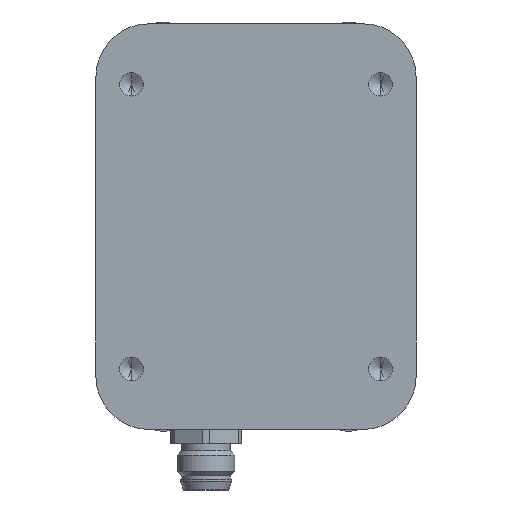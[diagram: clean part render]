
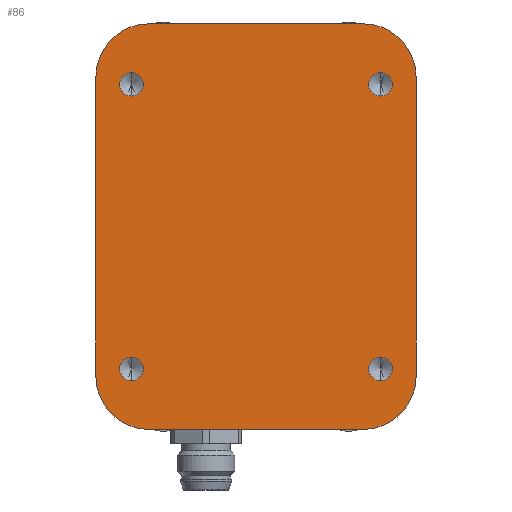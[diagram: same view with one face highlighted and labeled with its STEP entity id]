
A CAD part, front view. The second image highlights one B-rep face of the part: STEP entity #86.
In plain terms, the highlighted planar face has unit normal (0, -1, 0).
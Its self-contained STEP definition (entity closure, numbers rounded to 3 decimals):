
#32 = EDGE_CURVE ( 'NONE', #1466, #2374, #5503, .T. ) ;
#86 = ADVANCED_FACE ( 'NONE', ( #7129, #3865, #5037, #1613, #1275 ), #387, .T. ) ;
#98 = ORIENTED_EDGE ( 'NONE', *, *, #3847, .F. ) ;
#137 = EDGE_CURVE ( 'NONE', #4256, #5511, #5593, .T. ) ;
#147 = ORIENTED_EDGE ( 'NONE', *, *, #5981, .T. ) ;
#169 = CIRCLE ( 'NONE', #3942, 1.65 ) ;
#268 = LINE ( 'NONE', #3907, #1610 ) ;
#307 = DIRECTION ( 'NONE',  ( 0., 0., 1. ) ) ;
#339 = VECTOR ( 'NONE', #5810, 1000. ) ;
#387 = PLANE ( 'NONE',  #1679 ) ;
#407 = DIRECTION ( 'NONE',  ( 1., 0., 0. ) ) ;
#459 = DIRECTION ( 'NONE',  ( 0., -1., 0. ) ) ;
#499 = VECTOR ( 'NONE', #5546, 1000. ) ;
#500 = CARTESIAN_POINT ( 'NONE',  ( -8.359, 12.047, 60.6 ) ) ;
#502 = CARTESIAN_POINT ( 'NONE',  ( 26.641, 12.047, 20.6 ) ) ;
#526 = DIRECTION ( 'NONE',  ( 0., 0., 1. ) ) ;
#741 = ORIENTED_EDGE ( 'NONE', *, *, #137, .F. ) ;
#817 = CIRCLE ( 'NONE', #2929, 1.65 ) ;
#854 = DIRECTION ( 'NONE',  ( 0., -1., 0. ) ) ;
#890 = CARTESIAN_POINT ( 'NONE',  ( -8.359, 12.047, 20.6 ) ) ;
#903 = CIRCLE ( 'NONE', #2695, 7.5 ) ;
#975 = VERTEX_POINT ( 'NONE', #4673 ) ;
#977 = AXIS2_PLACEMENT_3D ( 'NONE', #3762, #4798, #7221 ) ;
#1038 = CARTESIAN_POINT ( 'NONE',  ( -13.359, 12.047, 12.1 ) ) ;
#1096 = CIRCLE ( 'NONE', #5447, 7.5 ) ;
#1103 = EDGE_CURVE ( 'NONE', #975, #5061, #268, .T. ) ;
#1212 = EDGE_CURVE ( 'NONE', #6176, #3005, #5761, .T. ) ;
#1241 = CARTESIAN_POINT ( 'NONE',  ( 24.141, 12.047, 19.6 ) ) ;
#1275 = FACE_OUTER_BOUND ( 'NONE', #3849, .T. ) ;
#1399 = CARTESIAN_POINT ( 'NONE',  ( -8.359, 12.047, 60.6 ) ) ;
#1403 = AXIS2_PLACEMENT_3D ( 'NONE', #6750, #4442, #4472 ) ;
#1423 = DIRECTION ( 'NONE',  ( 0., 0., -1. ) ) ;
#1433 = DIRECTION ( 'NONE',  ( 1., 0., 0. ) ) ;
#1437 = CARTESIAN_POINT ( 'NONE',  ( -13.359, 12.047, 12.1 ) ) ;
#1466 = VERTEX_POINT ( 'NONE', #6888 ) ;
#1467 = CARTESIAN_POINT ( 'NONE',  ( -13.359, 12.047, 12.1 ) ) ;
#1610 = VECTOR ( 'NONE', #526, 1000. ) ;
#1613 = FACE_BOUND ( 'NONE', #2256, .T. ) ;
#1679 = AXIS2_PLACEMENT_3D ( 'NONE', #1038, #5577, #407 ) ;
#1791 = CIRCLE ( 'NONE', #3034, 1.65 ) ;
#1812 = EDGE_CURVE ( 'NONE', #3533, #5982, #1791, .T. ) ;
#1814 = EDGE_LOOP ( 'NONE', ( #5177, #7062 ) ) ;
#2119 = CARTESIAN_POINT ( 'NONE',  ( -13.359, 12.047, 19.6 ) ) ;
#2171 = EDGE_CURVE ( 'NONE', #4594, #5435, #5571, .T. ) ;
#2205 = CARTESIAN_POINT ( 'NONE',  ( 24.141, 12.047, 61.6 ) ) ;
#2235 = LINE ( 'NONE', #2347, #339 ) ;
#2256 = EDGE_LOOP ( 'NONE', ( #3542, #3331 ) ) ;
#2347 = CARTESIAN_POINT ( 'NONE',  ( -13.359, 12.047, 69.1 ) ) ;
#2374 = VERTEX_POINT ( 'NONE', #7114 ) ;
#2423 = DIRECTION ( 'NONE',  ( 0., -1., 0. ) ) ;
#2673 = ORIENTED_EDGE ( 'NONE', *, *, #5777, .F. ) ;
#2695 = AXIS2_PLACEMENT_3D ( 'NONE', #1241, #5319, #5289 ) ;
#2728 = EDGE_CURVE ( 'NONE', #2374, #1466, #5923, .T. ) ;
#2753 = CARTESIAN_POINT ( 'NONE',  ( 24.141, 12.047, 69.1 ) ) ;
#2850 = ORIENTED_EDGE ( 'NONE', *, *, #7095, .F. ) ;
#2886 = DIRECTION ( 'NONE',  ( 0., 0., -1. ) ) ;
#2898 = ORIENTED_EDGE ( 'NONE', *, *, #4995, .T. ) ;
#2929 = AXIS2_PLACEMENT_3D ( 'NONE', #890, #4879, #3768 ) ;
#2942 = AXIS2_PLACEMENT_3D ( 'NONE', #500, #6325, #2886 ) ;
#3005 = VERTEX_POINT ( 'NONE', #7110 ) ;
#3011 = DIRECTION ( 'NONE',  ( 1., 0., 0. ) ) ;
#3019 = CARTESIAN_POINT ( 'NONE',  ( 31.641, 12.047, 61.6 ) ) ;
#3034 = AXIS2_PLACEMENT_3D ( 'NONE', #502, #3421, #5070 ) ;
#3223 = EDGE_CURVE ( 'NONE', #6176, #3419, #6540, .T. ) ;
#3231 = CARTESIAN_POINT ( 'NONE',  ( 26.641, 12.047, 18.95 ) ) ;
#3270 = ORIENTED_EDGE ( 'NONE', *, *, #3223, .T. ) ;
#3331 = ORIENTED_EDGE ( 'NONE', *, *, #6653, .F. ) ;
#3419 = VERTEX_POINT ( 'NONE', #6619 ) ;
#3421 = DIRECTION ( 'NONE',  ( 0., -1., 0. ) ) ;
#3522 = EDGE_CURVE ( 'NONE', #3419, #4981, #6164, .T. ) ;
#3533 = VERTEX_POINT ( 'NONE', #3231 ) ;
#3542 = ORIENTED_EDGE ( 'NONE', *, *, #1812, .F. ) ;
#3750 = EDGE_LOOP ( 'NONE', ( #2850, #741 ) ) ;
#3762 = CARTESIAN_POINT ( 'NONE',  ( 26.641, 12.047, 60.6 ) ) ;
#3768 = DIRECTION ( 'NONE',  ( 0., 0., -1. ) ) ;
#3847 = EDGE_CURVE ( 'NONE', #3877, #4199, #2235, .T. ) ;
#3849 = EDGE_LOOP ( 'NONE', ( #98, #4079, #4316, #3270, #4378, #147, #7083, #2898 ) ) ;
#3865 = FACE_BOUND ( 'NONE', #1814, .T. ) ;
#3877 = VERTEX_POINT ( 'NONE', #4674 ) ;
#3907 = CARTESIAN_POINT ( 'NONE',  ( 31.641, 12.047, 12.1 ) ) ;
#3920 = DIRECTION ( 'NONE',  ( 0., 0., -1. ) ) ;
#3924 = EDGE_LOOP ( 'NONE', ( #2673, #5465 ) ) ;
#3942 = AXIS2_PLACEMENT_3D ( 'NONE', #5186, #6933, #3920 ) ;
#4027 = CARTESIAN_POINT ( 'NONE',  ( -8.359, 12.047, 18.95 ) ) ;
#4079 = ORIENTED_EDGE ( 'NONE', *, *, #4380, .T. ) ;
#4092 = CARTESIAN_POINT ( 'NONE',  ( -8.359, 12.047, 20.6 ) ) ;
#4099 = CARTESIAN_POINT ( 'NONE',  ( 26.641, 12.047, 58.95 ) ) ;
#4149 = AXIS2_PLACEMENT_3D ( 'NONE', #4092, #2423, #4669 ) ;
#4161 = CARTESIAN_POINT ( 'NONE',  ( -8.359, 12.047, 22.25 ) ) ;
#4171 = CARTESIAN_POINT ( 'NONE',  ( -5.859, 12.047, 61.6 ) ) ;
#4199 = VERTEX_POINT ( 'NONE', #2753 ) ;
#4256 = VERTEX_POINT ( 'NONE', #5181 ) ;
#4316 = ORIENTED_EDGE ( 'NONE', *, *, #1212, .F. ) ;
#4378 = ORIENTED_EDGE ( 'NONE', *, *, #3522, .T. ) ;
#4380 = EDGE_CURVE ( 'NONE', #3877, #3005, #7356, .T. ) ;
#4442 = DIRECTION ( 'NONE',  ( 0., -1., 0. ) ) ;
#4472 = DIRECTION ( 'NONE',  ( 0., 0., -1. ) ) ;
#4594 = VERTEX_POINT ( 'NONE', #4161 ) ;
#4669 = DIRECTION ( 'NONE',  ( 0., 0., -1. ) ) ;
#4673 = CARTESIAN_POINT ( 'NONE',  ( 31.641, 12.047, 19.6 ) ) ;
#4674 = CARTESIAN_POINT ( 'NONE',  ( -5.859, 12.047, 69.1 ) ) ;
#4798 = DIRECTION ( 'NONE',  ( 0., -1., 0. ) ) ;
#4879 = DIRECTION ( 'NONE',  ( 0., -1., 0. ) ) ;
#4948 = AXIS2_PLACEMENT_3D ( 'NONE', #4171, #5372, #3011 ) ;
#4981 = VERTEX_POINT ( 'NONE', #5112 ) ;
#4995 = EDGE_CURVE ( 'NONE', #5061, #4199, #1096, .T. ) ;
#5037 = FACE_BOUND ( 'NONE', #3924, .T. ) ;
#5061 = VERTEX_POINT ( 'NONE', #3019 ) ;
#5070 = DIRECTION ( 'NONE',  ( 0., 0., -1. ) ) ;
#5112 = CARTESIAN_POINT ( 'NONE',  ( 24.141, 12.047, 12.1 ) ) ;
#5177 = ORIENTED_EDGE ( 'NONE', *, *, #2728, .F. ) ;
#5181 = CARTESIAN_POINT ( 'NONE',  ( 26.641, 12.047, 62.25 ) ) ;
#5186 = CARTESIAN_POINT ( 'NONE',  ( 26.641, 12.047, 20.6 ) ) ;
#5268 = AXIS2_PLACEMENT_3D ( 'NONE', #1399, #854, #1423 ) ;
#5289 = DIRECTION ( 'NONE',  ( 1., 0., 0. ) ) ;
#5319 = DIRECTION ( 'NONE',  ( 0., -1., 0. ) ) ;
#5372 = DIRECTION ( 'NONE',  ( 0., -1., 0. ) ) ;
#5435 = VERTEX_POINT ( 'NONE', #4027 ) ;
#5447 = AXIS2_PLACEMENT_3D ( 'NONE', #2205, #459, #6210 ) ;
#5465 = ORIENTED_EDGE ( 'NONE', *, *, #2171, .F. ) ;
#5503 = CIRCLE ( 'NONE', #5268, 1.65 ) ;
#5511 = VERTEX_POINT ( 'NONE', #4099 ) ;
#5546 = DIRECTION ( 'NONE',  ( 1., 0., 0. ) ) ;
#5571 = CIRCLE ( 'NONE', #4149, 1.65 ) ;
#5577 = DIRECTION ( 'NONE',  ( 0., -1., 0. ) ) ;
#5593 = CIRCLE ( 'NONE', #1403, 1.65 ) ;
#5761 = LINE ( 'NONE', #1437, #7207 ) ;
#5777 = EDGE_CURVE ( 'NONE', #5435, #4594, #817, .T. ) ;
#5810 = DIRECTION ( 'NONE',  ( 1., 0., 0. ) ) ;
#5923 = CIRCLE ( 'NONE', #2942, 1.65 ) ;
#5981 = EDGE_CURVE ( 'NONE', #4981, #975, #903, .T. ) ;
#5982 = VERTEX_POINT ( 'NONE', #6387 ) ;
#6013 = DIRECTION ( 'NONE',  ( 0., -1., 0. ) ) ;
#6164 = LINE ( 'NONE', #1467, #499 ) ;
#6176 = VERTEX_POINT ( 'NONE', #2119 ) ;
#6210 = DIRECTION ( 'NONE',  ( 1., 0., 0. ) ) ;
#6325 = DIRECTION ( 'NONE',  ( 0., -1., 0. ) ) ;
#6387 = CARTESIAN_POINT ( 'NONE',  ( 26.641, 12.047, 22.25 ) ) ;
#6540 = CIRCLE ( 'NONE', #6676, 7.5 ) ;
#6619 = CARTESIAN_POINT ( 'NONE',  ( -5.859, 12.047, 12.1 ) ) ;
#6653 = EDGE_CURVE ( 'NONE', #5982, #3533, #169, .T. ) ;
#6676 = AXIS2_PLACEMENT_3D ( 'NONE', #7157, #6013, #1433 ) ;
#6750 = CARTESIAN_POINT ( 'NONE',  ( 26.641, 12.047, 60.6 ) ) ;
#6888 = CARTESIAN_POINT ( 'NONE',  ( -8.359, 12.047, 62.25 ) ) ;
#6922 = CIRCLE ( 'NONE', #977, 1.65 ) ;
#6933 = DIRECTION ( 'NONE',  ( 0., -1., 0. ) ) ;
#7062 = ORIENTED_EDGE ( 'NONE', *, *, #32, .F. ) ;
#7083 = ORIENTED_EDGE ( 'NONE', *, *, #1103, .T. ) ;
#7095 = EDGE_CURVE ( 'NONE', #5511, #4256, #6922, .T. ) ;
#7110 = CARTESIAN_POINT ( 'NONE',  ( -13.359, 12.047, 61.6 ) ) ;
#7114 = CARTESIAN_POINT ( 'NONE',  ( -8.359, 12.047, 58.95 ) ) ;
#7129 = FACE_BOUND ( 'NONE', #3750, .T. ) ;
#7157 = CARTESIAN_POINT ( 'NONE',  ( -5.859, 12.047, 19.6 ) ) ;
#7207 = VECTOR ( 'NONE', #307, 1000. ) ;
#7221 = DIRECTION ( 'NONE',  ( 0., 0., -1. ) ) ;
#7356 = CIRCLE ( 'NONE', #4948, 7.5 ) ;
